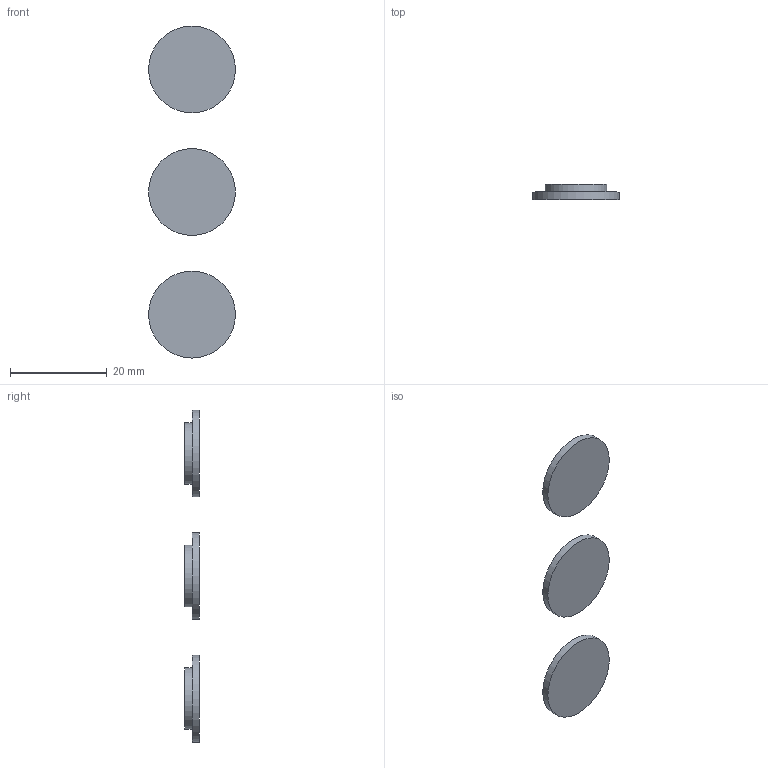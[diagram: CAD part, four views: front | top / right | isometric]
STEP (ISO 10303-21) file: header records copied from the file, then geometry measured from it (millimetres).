
FILE_DESCRIPTION(/* description */ (''),/* implementation_level */ '2;1');
FILE_NAME(/* name */ '/Users/laragrant/Documents/3d prints/snapFabric/wovens/femaleSnap3C.step',/* time_stamp */ '2016-07-12T18:14:44-04:00',/* author */ (''),/* organization */ (''),/* preprocessor_version */ 'ST-DEVELOPER v16.5',/* originating_system */ 'Autodesk Translation Framework v5.1.0.3141',/* authorisation */ '');
FILE_SCHEMA (('AUTOMOTIVE_DESIGN { 1 0 10303 214 3 1 1 }'));
Length unit declared in the file: centimetre
Products named in the file (1): 3 femaleSnap with Coaster v2
Bounding box: 18 x 3.1 x 68.8 mm (x, y, z)
Volume: 1172.8 mm3; surface area: 2278 mm2
Topology: 3 solids, 3 shells, 27 faces, 48 edges, 33 vertices
Faces by surface type: plane 12, cylinder 12, torus 3
Full cylindrical faces by diameter (mm): 9.18 x6, 12.78 x3, 18 x3
Entity records: 536 total; most frequent: DIRECTION 104, CARTESIAN_POINT 76, AXIS2_PLACEMENT_3D 52, EDGE_LOOP 48, ORIENTED_EDGE 48, FACE_OUTER_BOUND 27, ADVANCED_FACE 27, CIRCLE 24
